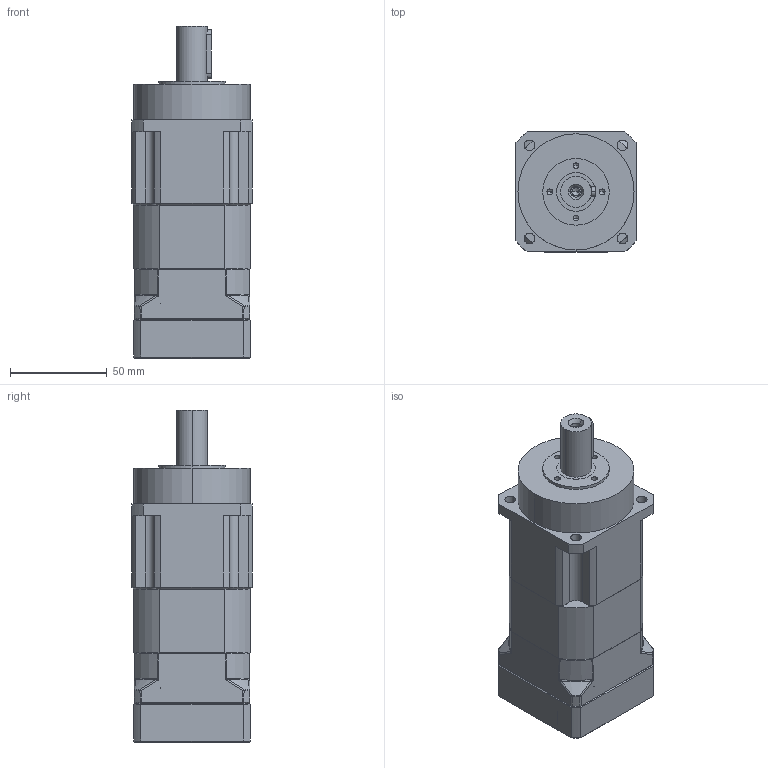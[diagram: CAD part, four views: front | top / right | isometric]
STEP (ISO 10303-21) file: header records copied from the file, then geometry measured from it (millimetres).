
FILE_DESCRIPTION (( 'STEP AP203' ), '1' );
FILE_NAME ('5A2XD.050060.021.STEP', '2018-09-07T05:14:25', ( '' ), ( '' ), 'SwSTEP 2.0', 'SolidWorks 2010', '' );
FILE_SCHEMA (( 'CONFIG_CONTROL_DESIGN' ));
Length unit declared in the file: millimetre
Products named in the file (9): PGL60鎖緊環; PUL60齒箱; 5A2XD.050060.021; 入力軸_10比; 沉頭內六角M5xP0.8x15L_CB5-5; 加長本體; 雙圓鍵5×5_Default; PGLH60後蓋_PGLH60後蓋成品; 234BC22215
Assembly tree (8 placements, depth 2):
  5A2XD.050060.021
    入力軸_10比
    PUL60齒箱
    PGLH60後蓋_PGLH60後蓋成品
    加長本體
    沉頭內六角M5xP0.8x15L_CB5-5
    雙圓鍵5×5_Default
    234BC22215
    PGL60鎖緊環
Bounding box: 62 x 62 x 171.5 mm (x, y, z)
Volume: 423991.7 mm3; surface area: 81067.4 mm2
Topology: 8 solids, 8 shells, 446 faces, 1084 edges, 655 vertices
Faces by surface type: cylinder 173, plane 131, cone 72, bspline 50, torus 12, sphere 8
Entity records: 15972 total; most frequent: CARTESIAN_POINT 4813, DIRECTION 2157, ORIENTED_EDGE 2112, EDGE_CURVE 1056, AXIS2_PLACEMENT_3D 867, VERTEX_POINT 655, EDGE_LOOP 517, CIRCLE 460
